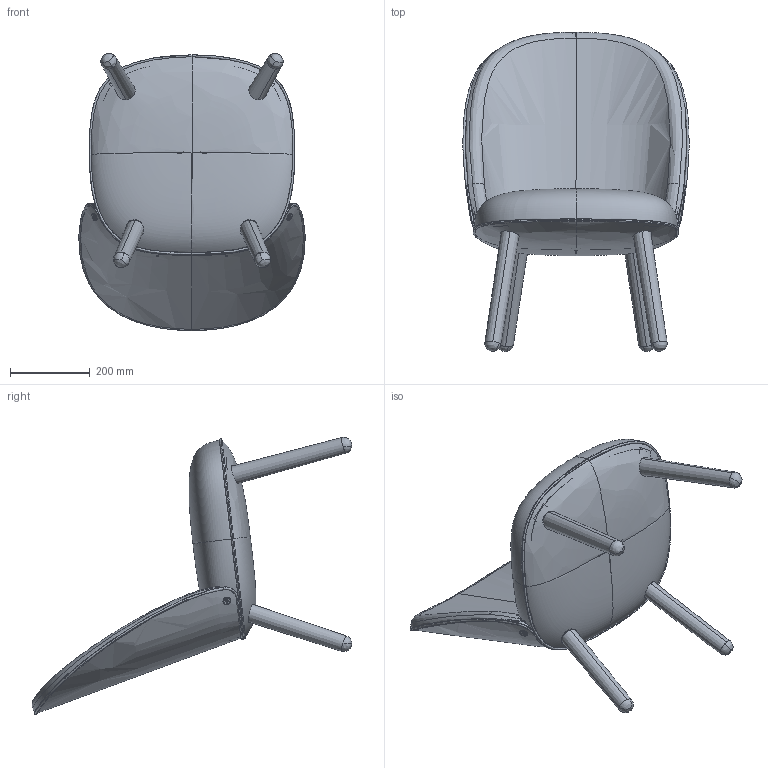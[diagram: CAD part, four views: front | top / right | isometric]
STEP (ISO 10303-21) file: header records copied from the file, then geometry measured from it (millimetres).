
FILE_DESCRIPTION (( 'STEP AP203' ), '1' );
FILE_NAME ('Ace Lounge chair - Assembled.STEP', '2016-09-14T06:09:58', ( '' ), ( '' ), 'SwSTEP 2.0', 'SolidWorks 2014', '' );
FILE_SCHEMA (( 'CONFIG_CONTROL_DESIGN' ));
Length unit declared in the file: millimetre
Products named in the file (1): Ace Lounge chair - Assembled
Bounding box: 567.95 x 802.33 x 695.85 mm (x, y, z)
Volume: 38652577.9 mm3; surface area: 2570825.9 mm2
Topology: 32 solids, 34 shells, 1063 faces, 2597 edges, 1607 vertices
Faces by surface type: bspline 425, plane 348, cylinder 274, cone 16
Entity records: 162255 total; most frequent: CARTESIAN_POINT 140271, ORIENTED_EDGE 5174, DIRECTION 3515, EDGE_CURVE 2587, VERTEX_POINT 1607, AXIS2_PLACEMENT_3D 1275, EDGE_LOOP 1158, ADVANCED_FACE 1063
